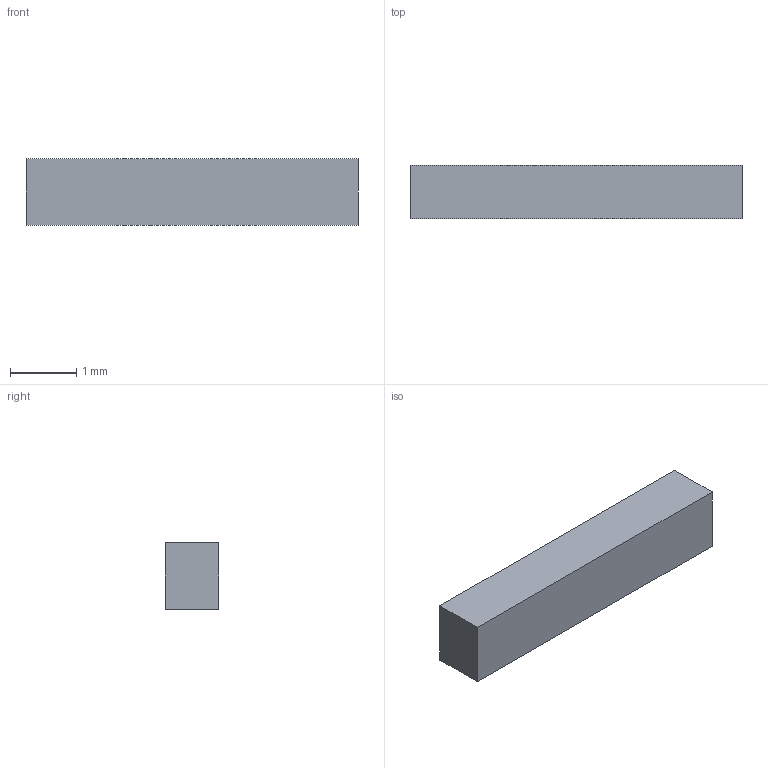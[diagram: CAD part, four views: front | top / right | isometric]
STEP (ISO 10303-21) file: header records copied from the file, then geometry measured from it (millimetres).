
FILE_DESCRIPTION(('Open CASCADE Model'),'2;1');
FILE_NAME('C27_UC1_PCB_Rear_Preload_3_FREE_STATE','2026-09-09T20:28:31', ('Author'),('Open CASCADE'),'Open CASCADE STEP processor 7.9', 'build123d','Unknown');
FILE_SCHEMA(('AUTOMOTIVE_DESIGN { 1 0 10303 214 1 1 1 1 }'));
Length unit declared in the file: millimetre
Products named in the file (1): C27_UC1_PCB_Rear_Preload_3_FREE_STATE
Bounding box: 5 x 0.8 x 1 mm (x, y, z)
Volume: 4 mm3; surface area: 19.6 mm2
Topology: 1 solids, 1 shells, 6 faces, 12 edges, 8 vertices
Faces by surface type: plane 6
Entity records: 322 total; most frequent: CARTESIAN_POINT 51, DIRECTION 50, LINE 36, VECTOR 36, ORIENTED_EDGE 24, PCURVE 24, DEFINITIONAL_REPRESENTATION 24, EDGE_CURVE 12
